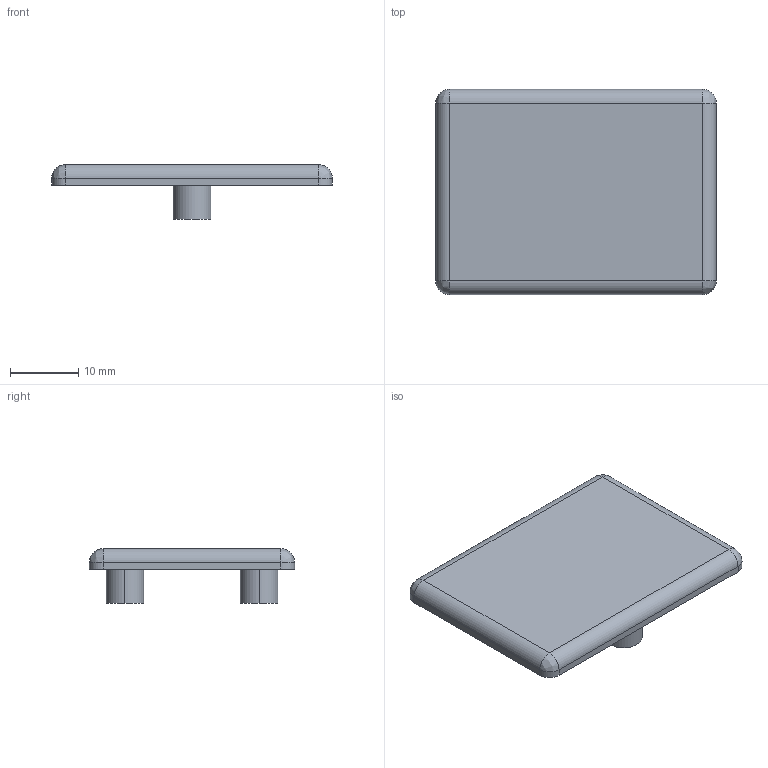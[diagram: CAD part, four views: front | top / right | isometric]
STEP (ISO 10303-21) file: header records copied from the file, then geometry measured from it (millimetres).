
FILE_DESCRIPTION (( 'STEP AP203' ), '1' );
FILE_NAME ('0106AKW3030.STEP', '2024-03-12T07:48:33', ( 'Windows-Benutzer' ), ( '' ), 'SwSTEP 2.0', 'SolidWorks 2023', '' );
FILE_SCHEMA (( 'CONFIG_CONTROL_DESIGN' ));
Length unit declared in the file: millimetre
Products named in the file (1): 0106AKW3030
Bounding box: 41 x 30 x 8 mm (x, y, z)
Volume: 3799.5 mm3; surface area: 2920.4 mm2
Topology: 1 solids, 1 shells, 24 faces, 52 edges, 28 vertices
Faces by surface type: cylinder 12, plane 8, bspline 4
Entity records: 741 total; most frequent: CARTESIAN_POINT 161, DIRECTION 114, ORIENTED_EDGE 96, EDGE_CURVE 48, AXIS2_PLACEMENT_3D 45, VERTEX_POINT 28, EDGE_LOOP 26, LINE 24
